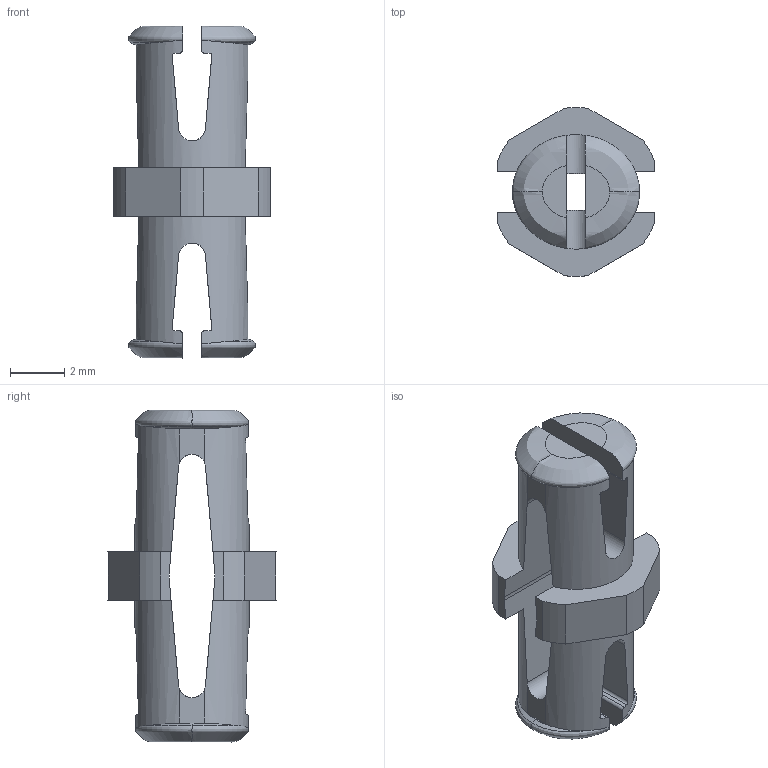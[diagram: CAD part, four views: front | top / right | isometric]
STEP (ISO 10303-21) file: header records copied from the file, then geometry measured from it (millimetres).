
FILE_DESCRIPTION (( 'STEP AP214' ), '1' );
FILE_NAME ('228-2500-2260.STEP', '2021-02-18T20:34:14', ( '' ), ( '' ), 'SwSTEP 2.0', 'SolidWorks 2019', '' );
FILE_SCHEMA (( 'AUTOMOTIVE_DESIGN' ));
Length unit declared in the file: millimetre
Products named in the file (1): 228-2500-2260
Bounding box: 5.8 x 6.24 x 12.28 mm (x, y, z)
Volume: 113.6 mm3; surface area: 312.8 mm2
Topology: 1 solids, 1 shells, 86 faces, 264 edges, 174 vertices
Faces by surface type: plane 40, cylinder 30, bspline 16
Entity records: 13440 total; most frequent: CARTESIAN_POINT 11287, ORIENTED_EDGE 528, DIRECTION 346, EDGE_CURVE 264, VERTEX_POINT 174, VECTOR 120, LINE 120, AXIS2_PLACEMENT_3D 113
